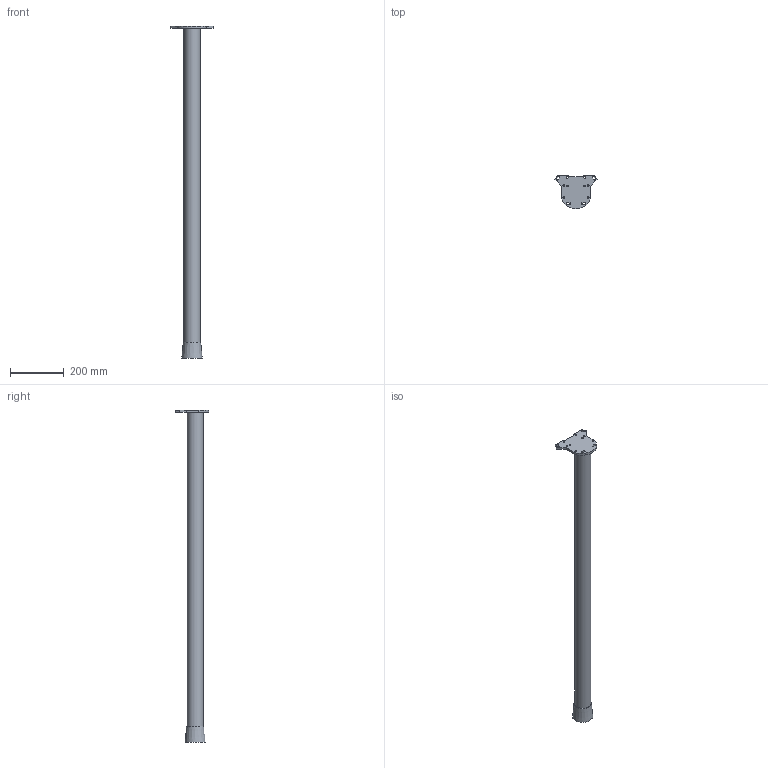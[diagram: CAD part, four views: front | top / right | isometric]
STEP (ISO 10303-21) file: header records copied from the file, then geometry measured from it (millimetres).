
FILE_DESCRIPTION( ( 'STEP AP214' ), '1' );
FILE_NAME( 'D:/Yug/2021/Desk_and_office_organisation/Correction in table leg fixing/QC/46048.stp', '2021-08-10T12:43:10', ( '' ), ( '' ), ' ', 'PARTsolutions', ' ' );
FILE_SCHEMA( ( 'AUTOMOTIVE_DESIGN { 1 0 10303 214 1 1 1 1 }' ) );
Length unit declared in the file: millimetre
Products named in the file (1): _46048
Bounding box: 155.69 x 124 x 1230 mm (x, y, z)
Volume: 3614298.7 mm3; surface area: 265601.7 mm2
Topology: 1 solids, 1 shells, 42 faces, 114 edges, 76 vertices
Faces by surface type: plane 23, cylinder 18, cone 1
Full cylindrical faces by diameter (mm): 6.5 x8, 60 x1
Entity records: 1686 total; most frequent: DIRECTION 228, CARTESIAN_POINT 223, ORIENTED_EDGE 208, EDGE_CURVE 104, AXIS2_PLACEMENT_3D 81, EDGE_LOOP 78, VERTEX_POINT 76, LINE 66
